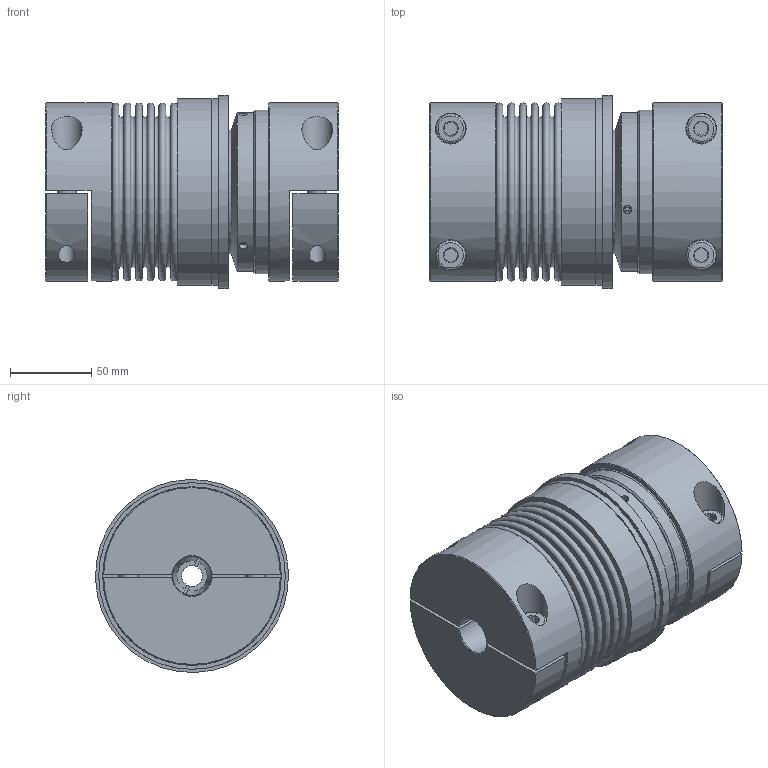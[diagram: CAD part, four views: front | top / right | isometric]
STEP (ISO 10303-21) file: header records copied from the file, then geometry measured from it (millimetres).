
FILE_DESCRIPTION( ( 'KBE1/14 - N7H8 - N14H7 - 98 Sh' ), '1' );
FILE_NAME( 'K:/Konstruktion/Fertigungszeichnungen/Überlastkupplung/KBK-B/KBK-BHH/300/KBK-BHH-300-181.stp', '14.12.2015', ( 'KBK-Antriebstechnik' ), ( 'KBK-Antriebstechnik' ), 'PSStep 16.0.42', 'Solid Edge St6', ' ' );
FILE_SCHEMA( ( 'AUTOMOTIVE_DESIGN { 1 0 10303 214 1 1 1 1 }' ) );
Length unit declared in the file: millimetre
Products named in the file (23): inafag_6011; inafag_6011_01-oa5; inafag_6011_02-oa6; inafag_6011_03-oa7; KB4H8-300-oa4; KN4H-300-oa2; Spreiznabe KB8-300-oa3; a_55_0; Kupplung L-P-300 Grundkörper_0-oa1; Kupplung L-P-300 Grundkörper_0-oa0; Stellring 300_0; KBK-B-H-300-oa8; ISO EN DIN 4762 M12x35; Flansch BK300; Druckring 300 für Katalog; Assem1; BL300_Standard_0; KN4H-300-oa9
Assembly tree (25 placements, depth 4):
  Assem1
    ISO EN DIN 4762 M12x35  x2
    BL300_Standard_0
    KN4H-300-oa9
    KN4H-300-oa9
    KBK-B-H-300-oa8
      ISO EN DIN 4762 M12x35  x2
      Flansch BK300
      Druckring 300 für Katalog
      Kupplung L-P-300 Grundkörper_0-oa1
        Kupplung L-P-300 Grundkörper_0-oa0
      Stellring 300_0
        Stellring 300_0
      a_55_0
        a_55_0
      KB4H8-300-oa4
        KN4H-300-oa2
        KN4H-300-oa2
        Spreiznabe KB8-300-oa3
      inafag_6011
        inafag_6011_01-oa5
        inafag_6011_02-oa6
        inafag_6011_02-oa6
        inafag_6011_03-oa7
Bounding box: 180.4 x 118.96 x 118.96 mm (x, y, z)
Volume: 1159320 mm3; surface area: 359663.1 mm2
Topology: 19 solids, 19 shells, 326 faces, 652 edges, 414 vertices
Faces by surface type: plane 138, cylinder 93, cone 54, torus 39, sphere 2
Full cylindrical faces by diameter (mm): 2.5 x2, 3.242 x3, 5.2 x3, 10.106 x4, 10.2 x3, 11 x4, 12 x8, 12.5 x4, 13 x1, 18 x4, 19 x4, 20 x1, 24 x2, 46 x1, 52 x1, 55 x3, 66.2 x2, 70 x1, 76 x2, 78.9 x2, 83.5 x1, 88 x1, 90 x2, 93 x1, 98 x1, 98.5 x1, 99.6 x1, 99.8 x2, 101 x3, 101.1 x2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
Entity records: 8820 total; most frequent: CARTESIAN_POINT 2103, DIRECTION 1132, ORIENTED_EDGE 734, AXIS2_PLACEMENT_3D 522, EDGE_LOOP 452, EDGE_CURVE 367, FACE_OUTER_BOUND 345, VERTEX_POINT 323
